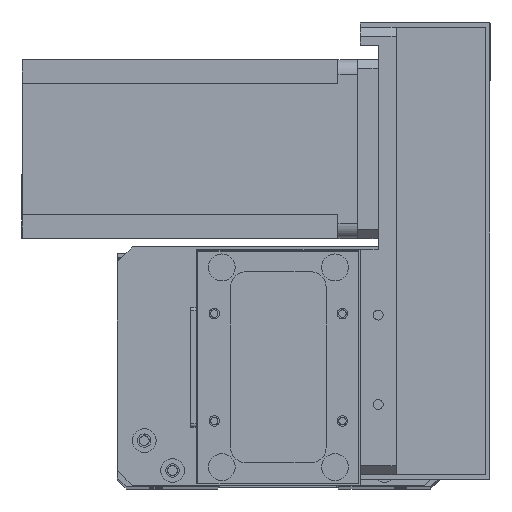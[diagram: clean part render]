
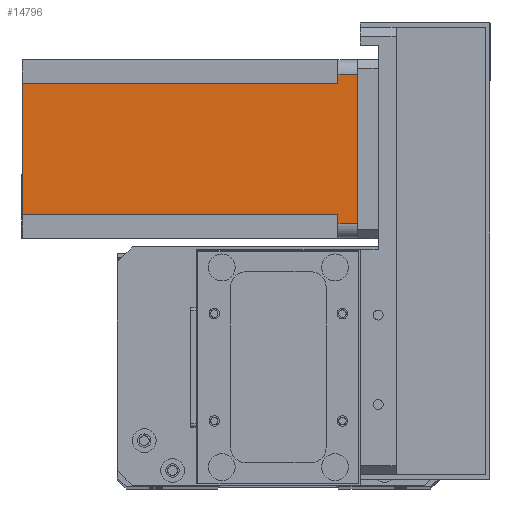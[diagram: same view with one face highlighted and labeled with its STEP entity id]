
A CAD part, top view. The second image highlights one B-rep face of the part: STEP entity #14796.
In plain terms, the highlighted planar face has unit normal (0, 0, 1) as drawn and (0, 1, 0) by its records, which use the part's own axes.
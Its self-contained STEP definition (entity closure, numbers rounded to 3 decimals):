
#705 = VECTOR ( 'NONE', #25526, 1000. ) ;
#971 = CARTESIAN_POINT ( 'NONE',  ( 5., 60., 0. ) ) ;
#1982 = EDGE_CURVE ( 'NONE', #14372, #21497, #2088, .T. ) ;
#2024 = EDGE_CURVE ( 'NONE', #4515, #16945, #6631, .T. ) ;
#2088 = LINE ( 'NONE', #20790, #13261 ) ;
#2211 = ORIENTED_EDGE ( 'NONE', *, *, #2024, .F. ) ;
#2836 = DIRECTION ( 'NONE',  ( 0., 0., 1. ) ) ;
#3384 = VECTOR ( 'NONE', #13606, 1000. ) ;
#3610 = DIRECTION ( 'NONE',  ( -1., 0., 0. ) ) ;
#3620 = ORIENTED_EDGE ( 'NONE', *, *, #26198, .T. ) ;
#4051 = FACE_OUTER_BOUND ( 'NONE', #23516, .T. ) ;
#4282 = VECTOR ( 'NONE', #20913, 1000. ) ;
#4485 = ORIENTED_EDGE ( 'NONE', *, *, #8045, .F. ) ;
#4515 = VERTEX_POINT ( 'NONE', #11481 ) ;
#5005 = CARTESIAN_POINT ( 'NONE',  ( 52., 60., -6.5 ) ) ;
#5320 = EDGE_CURVE ( 'NONE', #6029, #21497, #19198, .T. ) ;
#6029 = VERTEX_POINT ( 'NONE', #11567 ) ;
#6631 = LINE ( 'NONE', #23266, #705 ) ;
#8045 = EDGE_CURVE ( 'NONE', #6029, #12705, #27509, .T. ) ;
#8339 = VECTOR ( 'NONE', #14152, 1000. ) ;
#9885 = EDGE_CURVE ( 'NONE', #12705, #12817, #10213, .T. ) ;
#10039 = VECTOR ( 'NONE', #3610, 1000. ) ;
#10213 = LINE ( 'NONE', #23093, #4282 ) ;
#10293 = VERTEX_POINT ( 'NONE', #25787 ) ;
#10342 = PLANE ( 'NONE',  #13687 ) ;
#11233 = CARTESIAN_POINT ( 'NONE',  ( 8., 60., -112.5 ) ) ;
#11397 = ORIENTED_EDGE ( 'NONE', *, *, #1982, .F. ) ;
#11481 = CARTESIAN_POINT ( 'NONE',  ( 55., 60., 0. ) ) ;
#11567 = CARTESIAN_POINT ( 'NONE',  ( 52., 60., -112.5 ) ) ;
#11913 = CARTESIAN_POINT ( 'NONE',  ( 55., 60., -112.5 ) ) ;
#12012 = ORIENTED_EDGE ( 'NONE', *, *, #22842, .T. ) ;
#12483 = CARTESIAN_POINT ( 'NONE',  ( 8., 60., -6.5 ) ) ;
#12577 = DIRECTION ( 'NONE',  ( 0., 1., 0. ) ) ;
#12705 = VERTEX_POINT ( 'NONE', #5005 ) ;
#12817 = VERTEX_POINT ( 'NONE', #14270 ) ;
#13261 = VECTOR ( 'NONE', #16383, 1000. ) ;
#13606 = DIRECTION ( 'NONE',  ( 0., 0., 1. ) ) ;
#13687 = AXIS2_PLACEMENT_3D ( 'NONE', #14734, #12577, #28277 ) ;
#14152 = DIRECTION ( 'NONE',  ( 0., 0., -1. ) ) ;
#14268 = LINE ( 'NONE', #11913, #8339 ) ;
#14270 = CARTESIAN_POINT ( 'NONE',  ( 55., 60., -6.5 ) ) ;
#14372 = VERTEX_POINT ( 'NONE', #26748 ) ;
#14578 = LINE ( 'NONE', #12483, #10039 ) ;
#14734 = CARTESIAN_POINT ( 'NONE',  ( 0., 60., -112.5 ) ) ;
#14796 = ADVANCED_FACE ( 'NONE', ( #4051 ), #10342, .T. ) ;
#16383 = DIRECTION ( 'NONE',  ( 0., 0., -1. ) ) ;
#16945 = VERTEX_POINT ( 'NONE', #971 ) ;
#17058 = ORIENTED_EDGE ( 'NONE', *, *, #5320, .T. ) ;
#18493 = VECTOR ( 'NONE', #25473, 1000. ) ;
#18699 = CARTESIAN_POINT ( 'NONE',  ( 0., 60., -112.5 ) ) ;
#19198 = LINE ( 'NONE', #18699, #18493 ) ;
#20790 = CARTESIAN_POINT ( 'NONE',  ( 8., 60., -112.5 ) ) ;
#20913 = DIRECTION ( 'NONE',  ( 1., 0., 0. ) ) ;
#21220 = LINE ( 'NONE', #26871, #3384 ) ;
#21292 = ORIENTED_EDGE ( 'NONE', *, *, #21692, .T. ) ;
#21497 = VERTEX_POINT ( 'NONE', #11233 ) ;
#21692 = EDGE_CURVE ( 'NONE', #4515, #12817, #14268, .T. ) ;
#22842 = EDGE_CURVE ( 'NONE', #10293, #16945, #21220, .T. ) ;
#23093 = CARTESIAN_POINT ( 'NONE',  ( 52., 60., -6.5 ) ) ;
#23266 = CARTESIAN_POINT ( 'NONE',  ( 0., 60., 0. ) ) ;
#23516 = EDGE_LOOP ( 'NONE', ( #2211, #21292, #24133, #4485, #17058, #11397, #3620, #12012 ) ) ;
#24133 = ORIENTED_EDGE ( 'NONE', *, *, #9885, .F. ) ;
#25473 = DIRECTION ( 'NONE',  ( -1., 0., 0. ) ) ;
#25526 = DIRECTION ( 'NONE',  ( -1., 0., 0. ) ) ;
#25787 = CARTESIAN_POINT ( 'NONE',  ( 5., 60., -6.5 ) ) ;
#26086 = VECTOR ( 'NONE', #2836, 1000. ) ;
#26198 = EDGE_CURVE ( 'NONE', #14372, #10293, #14578, .T. ) ;
#26748 = CARTESIAN_POINT ( 'NONE',  ( 8., 60., -6.5 ) ) ;
#26871 = CARTESIAN_POINT ( 'NONE',  ( 5., 60., -112.5 ) ) ;
#27421 = CARTESIAN_POINT ( 'NONE',  ( 52., 60., -112.5 ) ) ;
#27509 = LINE ( 'NONE', #27421, #26086 ) ;
#28277 = DIRECTION ( 'NONE',  ( 0., 0., 1. ) ) ;
